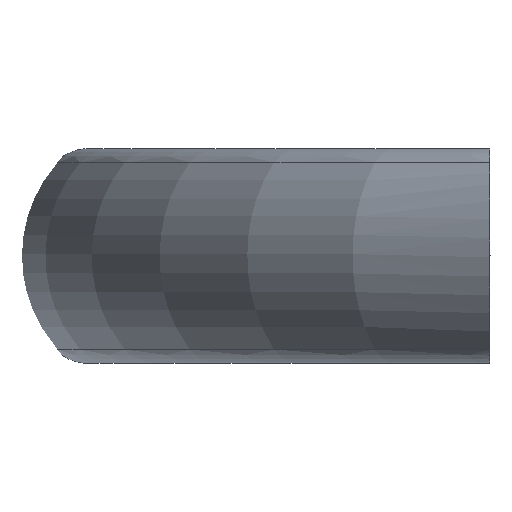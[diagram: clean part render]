
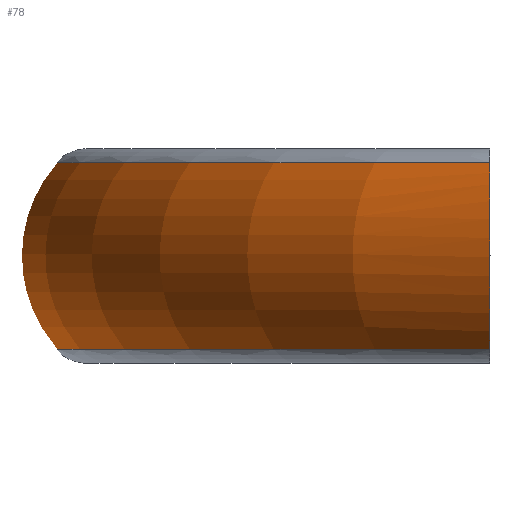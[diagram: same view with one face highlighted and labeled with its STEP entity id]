
A CAD part, left-side view. The second image highlights one B-rep face of the part: STEP entity #78.
In plain terms, the highlighted toroidal (fillet/blend) face has major radius 90.727 mm and minor radius 16.946 mm.
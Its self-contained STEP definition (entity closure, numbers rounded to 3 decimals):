
#78 = ADVANCED_FACE( '', ( #97 ), #98, .T. );
#97 = FACE_OUTER_BOUND( '', #129, .T. );
#98 = TOROIDAL_SURFACE( '', #130, 90.727, 16.946 );
#129 = EDGE_LOOP( '', ( #167, #168, #169, #170 ) );
#130 = AXIS2_PLACEMENT_3D( '', #171, #172, #173 );
#167 = ORIENTED_EDGE( '', *, *, #231, .F. );
#168 = ORIENTED_EDGE( '', *, *, #232, .T. );
#169 = ORIENTED_EDGE( '', *, *, #233, .T. );
#170 = ORIENTED_EDGE( '', *, *, #234, .T. );
#171 = CARTESIAN_POINT( '', ( 0., -50.673, 0. ) );
#172 = DIRECTION( '', ( 0., 0., -1. ) );
#173 = DIRECTION( '', ( -1., 0., 0. ) );
#231 = EDGE_CURVE( '', #254, #255, #256, .T. );
#232 = EDGE_CURVE( '', #254, #257, #258, .T. );
#233 = EDGE_CURVE( '', #257, #259, #260, .T. );
#234 = EDGE_CURVE( '', #259, #255, #261, .T. );
#254 = VERTEX_POINT( '', #286 );
#255 = VERTEX_POINT( '', #287 );
#256 = CIRCLE( '', #288, 103.342 );
#257 = VERTEX_POINT( '', #289 );
#258 = B_SPLINE_CURVE_WITH_KNOTS( '', 3, ( #290, #291, #292, #293, #294, #295, #296, #297, #298, #299, #300, #301, #302, #303, #304, #305, #306, #307, #308, #309, #310, #311, #312, #313 ), .UNSPECIFIED., .F., .F., ( 4, 2, 2, 2, 2, 2, 2, 2, 2, 2, 2, 4 ), ( 0.109, 0.112, 0.115, 0.117, 0.119, 0.122, 0.123, 0.125, 0.128, 0.131, 0.133, 0.134 ), .UNSPECIFIED. );
#259 = VERTEX_POINT( '', #314 );
#260 = CIRCLE( '', #315, 103.342 );
#261 = B_SPLINE_CURVE_WITH_KNOTS( '', 3, ( #316, #317, #318, #319, #320, #321, #322, #323, #324, #325, #326, #327, #328, #329, #330, #331, #332, #333, #334, #335, #336, #337, #338, #339, #340, #341, #342, #343 ), .UNSPECIFIED., .F., .F., ( 4, 2, 2, 2, 2, 2, 2, 2, 2, 2, 2, 2, 2, 4 ), ( 0.05, 0.051, 0.053, 0.056, 0.057, 0.059, 0.062, 0.064, 0.065, 0.067, 0.068, 0.072, 0.073, 0.075 ), .UNSPECIFIED. );
#286 = CARTESIAN_POINT( '', ( -90.065, 0., -11.315 ) );
#287 = CARTESIAN_POINT( '', ( 90.065, 0., -11.315 ) );
#288 = AXIS2_PLACEMENT_3D( '', #498, #499, #500 );
#289 = CARTESIAN_POINT( '', ( -90.065, 0., 11.315 ) );
#290 = CARTESIAN_POINT( '', ( -90.065, 0., -11.315 ) );
#291 = CARTESIAN_POINT( '', ( -90.82, 0., -10.582 ) );
#292 = CARTESIAN_POINT( '', ( -91.51, 0., -9.782 ) );
#293 = CARTESIAN_POINT( '', ( -92.74, 0., -8.038 ) );
#294 = CARTESIAN_POINT( '', ( -93.263, 0., -7.119 ) );
#295 = CARTESIAN_POINT( '', ( -93.902, 0., -5.676 ) );
#296 = CARTESIAN_POINT( '', ( -94.092, 0., -5.184 ) );
#297 = CARTESIAN_POINT( '', ( -94.42, 0., -4.177 ) );
#298 = CARTESIAN_POINT( '', ( -94.56, 0., -3.659 ) );
#299 = CARTESIAN_POINT( '', ( -94.892, 0., -2.105 ) );
#300 = CARTESIAN_POINT( '', ( -95.003, 0., -1.06 ) );
#301 = CARTESIAN_POINT( '', ( -95.004, 0., 0.523 ) );
#302 = CARTESIAN_POINT( '', ( -94.976, 0., 1.056 ) );
#303 = CARTESIAN_POINT( '', ( -94.863, 0., 2.113 ) );
#304 = CARTESIAN_POINT( '', ( -94.78, 0., 2.634 ) );
#305 = CARTESIAN_POINT( '', ( -94.449, 0., 4.177 ) );
#306 = CARTESIAN_POINT( '', ( -94.122, 0., 5.18 ) );
#307 = CARTESIAN_POINT( '', ( -93.259, 0., 7.129 ) );
#308 = CARTESIAN_POINT( '', ( -92.735, 0., 8.044 ) );
#309 = CARTESIAN_POINT( '', ( -91.825, 0., 9.336 ) );
#310 = CARTESIAN_POINT( '', ( -91.5, 0., 9.752 ) );
#311 = CARTESIAN_POINT( '', ( -90.809, 0., 10.559 ) );
#312 = CARTESIAN_POINT( '', ( -90.444, 0., 10.947 ) );
#313 = CARTESIAN_POINT( '', ( -90.065, 0., 11.315 ) );
#314 = CARTESIAN_POINT( '', ( 90.065, 0., 11.315 ) );
#315 = AXIS2_PLACEMENT_3D( '', #501, #502, #503 );
#316 = CARTESIAN_POINT( '', ( 90.065, 0., 11.315 ) );
#317 = CARTESIAN_POINT( '', ( 90.443, 0., 10.948 ) );
#318 = CARTESIAN_POINT( '', ( 90.806, 0., 10.563 ) );
#319 = CARTESIAN_POINT( '', ( 91.499, 0., 9.755 ) );
#320 = CARTESIAN_POINT( '', ( 91.825, 0., 9.335 ) );
#321 = CARTESIAN_POINT( '', ( 92.735, 0., 8.044 ) );
#322 = CARTESIAN_POINT( '', ( 93.255, 0., 7.134 ) );
#323 = CARTESIAN_POINT( '', ( 93.897, 0., 5.691 ) );
#324 = CARTESIAN_POINT( '', ( 94.088, 0., 5.196 ) );
#325 = CARTESIAN_POINT( '', ( 94.419, 0., 4.182 ) );
#326 = CARTESIAN_POINT( '', ( 94.557, 0., 3.671 ) );
#327 = CARTESIAN_POINT( '', ( 94.889, 0., 2.126 ) );
#328 = CARTESIAN_POINT( '', ( 95.002, 0., 1.081 ) );
#329 = CARTESIAN_POINT( '', ( 95.004, 0., -0.51 ) );
#330 = CARTESIAN_POINT( '', ( 94.977, 0., -1.045 ) );
#331 = CARTESIAN_POINT( '', ( 94.865, 0., -2.098 ) );
#332 = CARTESIAN_POINT( '', ( 94.782, 0., -2.619 ) );
#333 = CARTESIAN_POINT( '', ( 94.563, 0., -3.649 ) );
#334 = CARTESIAN_POINT( '', ( 94.426, 0., -4.158 ) );
#335 = CARTESIAN_POINT( '', ( 94.099, 0., -5.165 ) );
#336 = CARTESIAN_POINT( '', ( 93.907, 0., -5.665 ) );
#337 = CARTESIAN_POINT( '', ( 93.262, 0., -7.121 ) );
#338 = CARTESIAN_POINT( '', ( 92.74, 0., -8.037 ) );
#339 = CARTESIAN_POINT( '', ( 91.827, 0., -9.333 ) );
#340 = CARTESIAN_POINT( '', ( 91.499, 0., -9.754 ) );
#341 = CARTESIAN_POINT( '', ( 90.807, 0., -10.562 ) );
#342 = CARTESIAN_POINT( '', ( 90.444, 0., -10.948 ) );
#343 = CARTESIAN_POINT( '', ( 90.065, 0., -11.315 ) );
#498 = CARTESIAN_POINT( '', ( 0., -50.673, -11.315 ) );
#499 = DIRECTION( '', ( 0., 0., -1. ) );
#500 = DIRECTION( '', ( -1., 0., 0. ) );
#501 = CARTESIAN_POINT( '', ( 0., -50.673, 11.315 ) );
#502 = DIRECTION( '', ( 0., 0., -1. ) );
#503 = DIRECTION( '', ( -1., 0., 0. ) );
